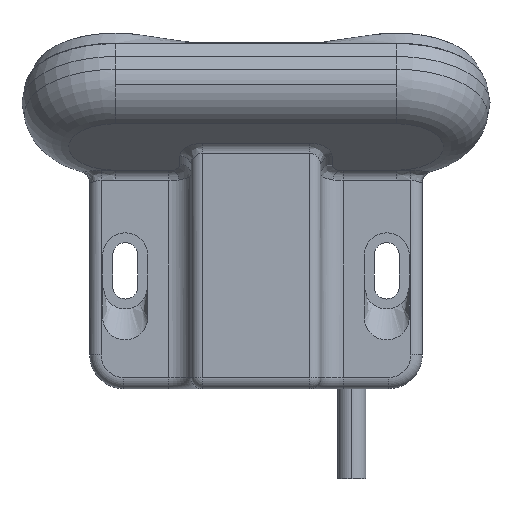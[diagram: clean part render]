
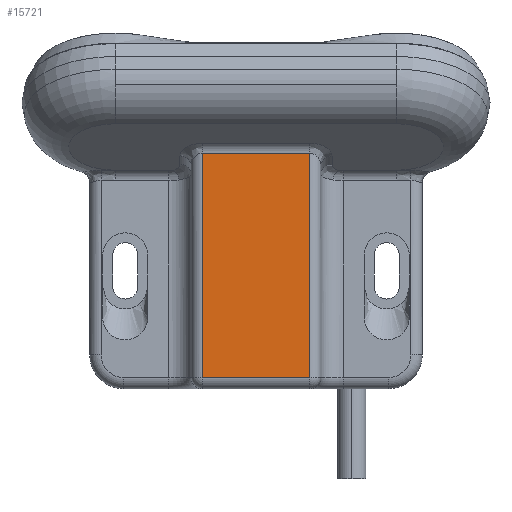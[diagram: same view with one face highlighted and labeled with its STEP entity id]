
A CAD part, front view. The second image highlights one B-rep face of the part: STEP entity #15721.
In plain terms, the highlighted planar face has unit normal (0, -1, 0).
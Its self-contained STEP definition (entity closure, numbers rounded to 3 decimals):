
#1447 = CARTESIAN_POINT ( 'NONE',  ( -8.169, -10.783, 53.483 ) ) ;
#1685 = DIRECTION ( 'NONE',  ( 1., 0., 0. ) ) ;
#2191 = ORIENTED_EDGE ( 'NONE', *, *, #8643, .T. ) ;
#3025 = LINE ( 'NONE', #6062, #4778 ) ;
#3039 = DIRECTION ( 'NONE',  ( 0., 0., 1. ) ) ;
#3372 = DIRECTION ( 'NONE',  ( 0., -1., 0. ) ) ;
#3560 = EDGE_LOOP ( 'NONE', ( #10892, #2191, #11310, #12191 ) ) ;
#4690 = DIRECTION ( 'NONE',  ( -1., 0., 0. ) ) ;
#4778 = VECTOR ( 'NONE', #3039, 1000. ) ;
#4861 = PLANE ( 'NONE',  #16462 ) ;
#4896 = CARTESIAN_POINT ( 'NONE',  ( -23.669, -10.783, 53.483 ) ) ;
#5059 = CARTESIAN_POINT ( 'NONE',  ( 12.831, -10.783, 136.733 ) ) ;
#5352 = LINE ( 'NONE', #4896, #14020 ) ;
#5890 = VERTEX_POINT ( 'NONE', #7722 ) ;
#6062 = CARTESIAN_POINT ( 'NONE',  ( 10.831, -10.783, 136.733 ) ) ;
#6067 = LINE ( 'NONE', #7472, #7304 ) ;
#6786 = EDGE_CURVE ( 'NONE', #11100, #13476, #3025, .T. ) ;
#7217 = VECTOR ( 'NONE', #13928, 1000. ) ;
#7304 = VECTOR ( 'NONE', #9046, 1000. ) ;
#7472 = CARTESIAN_POINT ( 'NONE',  ( -8.169, -10.783, 136.733 ) ) ;
#7722 = CARTESIAN_POINT ( 'NONE',  ( -8.169, -10.783, 93.319 ) ) ;
#8643 = EDGE_CURVE ( 'NONE', #13476, #5890, #10016, .T. ) ;
#9046 = DIRECTION ( 'NONE',  ( 0., 0., -1. ) ) ;
#10016 = LINE ( 'NONE', #13793, #7217 ) ;
#10892 = ORIENTED_EDGE ( 'NONE', *, *, #6786, .T. ) ;
#11100 = VERTEX_POINT ( 'NONE', #12209 ) ;
#11310 = ORIENTED_EDGE ( 'NONE', *, *, #20892, .T. ) ;
#12034 = FACE_OUTER_BOUND ( 'NONE', #3560, .T. ) ;
#12191 = ORIENTED_EDGE ( 'NONE', *, *, #16971, .F. ) ;
#12209 = CARTESIAN_POINT ( 'NONE',  ( 10.831, -10.783, 53.483 ) ) ;
#13476 = VERTEX_POINT ( 'NONE', #18061 ) ;
#13793 = CARTESIAN_POINT ( 'NONE',  ( 26.331, -10.783, 93.319 ) ) ;
#13928 = DIRECTION ( 'NONE',  ( -1., 0., 0. ) ) ;
#13970 = VERTEX_POINT ( 'NONE', #1447 ) ;
#14020 = VECTOR ( 'NONE', #4690, 1000. ) ;
#15721 = ADVANCED_FACE ( 'NONE', ( #12034 ), #4861, .T. ) ;
#16462 = AXIS2_PLACEMENT_3D ( 'NONE', #5059, #3372, #1685 ) ;
#16971 = EDGE_CURVE ( 'NONE', #11100, #13970, #5352, .T. ) ;
#18061 = CARTESIAN_POINT ( 'NONE',  ( 10.831, -10.783, 93.319 ) ) ;
#20892 = EDGE_CURVE ( 'NONE', #5890, #13970, #6067, .T. ) ;
